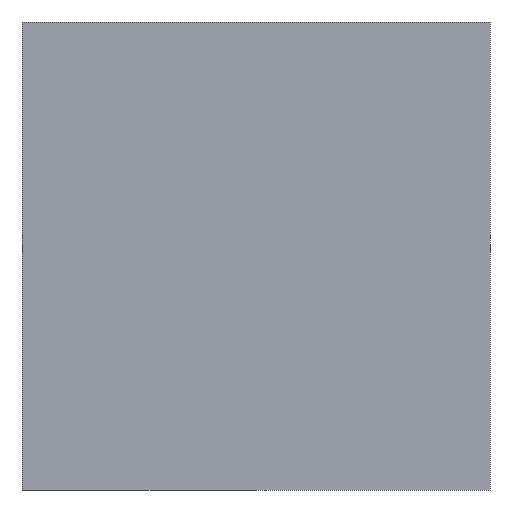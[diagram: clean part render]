
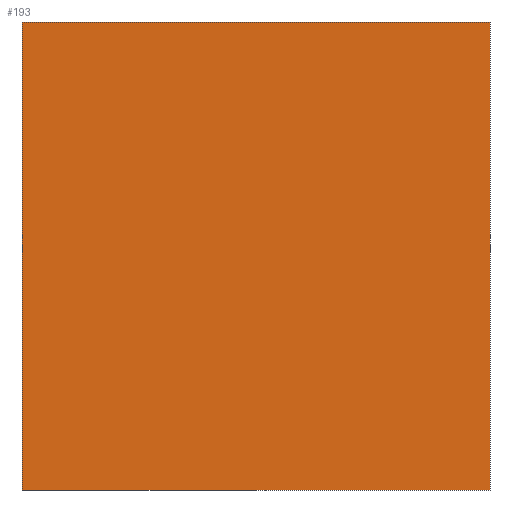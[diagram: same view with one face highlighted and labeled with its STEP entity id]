
A CAD part, left-side view. The second image highlights one B-rep face of the part: STEP entity #193.
In plain terms, the highlighted planar face has unit normal (-1, 0, 0).
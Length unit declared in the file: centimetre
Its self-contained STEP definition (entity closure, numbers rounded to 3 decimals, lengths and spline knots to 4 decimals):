
#3 = ORIENTED_EDGE ( 'NONE', *, *, #482, .F. ) ;
#10 = DIRECTION ( 'NONE',  ( 1., 0., 0. ) ) ;
#53 = VERTEX_POINT ( 'NONE', #214 ) ;
#57 = CARTESIAN_POINT ( 'NONE',  ( 0., 1000., 0. ) ) ;
#75 = CARTESIAN_POINT ( 'NONE',  ( 0., 1000., 1000. ) ) ;
#77 = LINE ( 'NONE', #285, #246 ) ;
#90 = DIRECTION ( 'NONE',  ( 0., -1., 0. ) ) ;
#92 = VERTEX_POINT ( 'NONE', #466 ) ;
#96 = VERTEX_POINT ( 'NONE', #506 ) ;
#134 = LINE ( 'NONE', #57, #290 ) ;
#156 = CARTESIAN_POINT ( 'NONE',  ( 0., 1000., 1000. ) ) ;
#158 = EDGE_CURVE ( 'NONE', #53, #92, #134, .T. ) ;
#174 = CARTESIAN_POINT ( 'NONE',  ( 0., 1000., 1000. ) ) ;
#177 = DIRECTION ( 'NONE',  ( 0., 0., -1. ) ) ;
#193 = ADVANCED_FACE ( 'NONE', ( #223 ), #390, .F. ) ;
#209 = VECTOR ( 'NONE', #520, 100. ) ;
#214 = CARTESIAN_POINT ( 'NONE',  ( 0., 1000., 0. ) ) ;
#223 = FACE_OUTER_BOUND ( 'NONE', #364, .T. ) ;
#229 = ORIENTED_EDGE ( 'NONE', *, *, #158, .T. ) ;
#231 = AXIS2_PLACEMENT_3D ( 'NONE', #174, #10, #177 ) ;
#246 = VECTOR ( 'NONE', #450, 100. ) ;
#255 = VECTOR ( 'NONE', #490, 100. ) ;
#260 = ORIENTED_EDGE ( 'NONE', *, *, #536, .F. ) ;
#282 = CARTESIAN_POINT ( 'NONE',  ( 0., 1000., 1000. ) ) ;
#285 = CARTESIAN_POINT ( 'NONE',  ( 0., 0., 1000. ) ) ;
#290 = VECTOR ( 'NONE', #90, 100. ) ;
#323 = LINE ( 'NONE', #156, #255 ) ;
#347 = VERTEX_POINT ( 'NONE', #75 ) ;
#364 = EDGE_LOOP ( 'NONE', ( #229, #260, #3, #461 ) ) ;
#390 = PLANE ( 'NONE',  #231 ) ;
#412 = EDGE_CURVE ( 'NONE', #347, #53, #487, .T. ) ;
#450 = DIRECTION ( 'NONE',  ( 0., 0., -1. ) ) ;
#461 = ORIENTED_EDGE ( 'NONE', *, *, #412, .T. ) ;
#466 = CARTESIAN_POINT ( 'NONE',  ( 0., 0., 0. ) ) ;
#482 = EDGE_CURVE ( 'NONE', #347, #96, #323, .T. ) ;
#487 = LINE ( 'NONE', #282, #209 ) ;
#490 = DIRECTION ( 'NONE',  ( 0., -1., 0. ) ) ;
#506 = CARTESIAN_POINT ( 'NONE',  ( 0., 0., 1000. ) ) ;
#520 = DIRECTION ( 'NONE',  ( 0., 0., -1. ) ) ;
#536 = EDGE_CURVE ( 'NONE', #96, #92, #77, .T. ) ;
